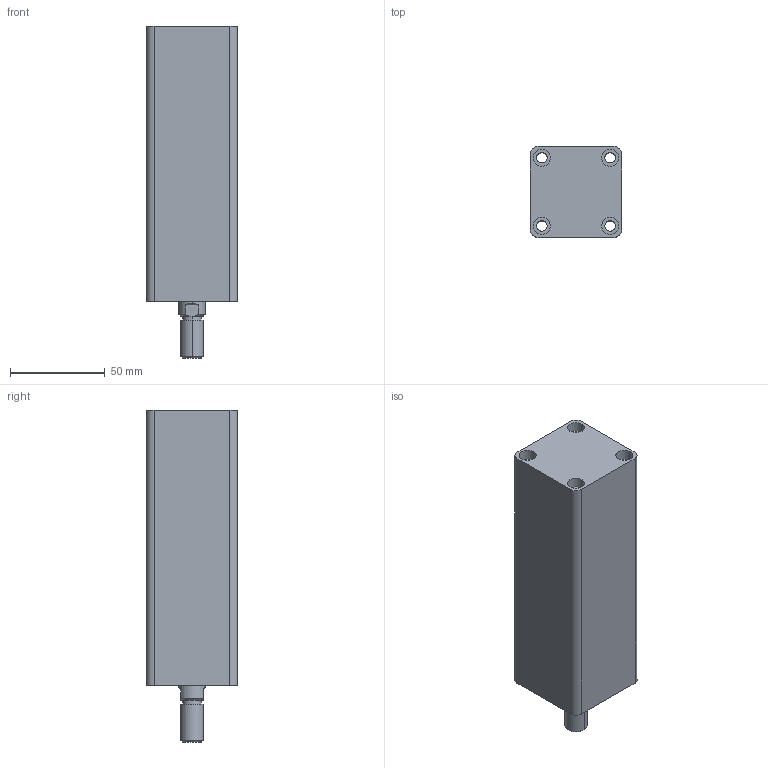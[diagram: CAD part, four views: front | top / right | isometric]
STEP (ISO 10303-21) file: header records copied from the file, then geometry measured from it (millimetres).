
FILE_DESCRIPTION (( 'STEP AP203' ), '1' );
FILE_NAME ('HTB-SD25-100W.STEP', '2019-10-07T06:21:53', ( '微软用户' ), ( '微软中国' ), 'SwSTEP 2.0', 'SolidWorks 2012', '' );
FILE_SCHEMA (( 'CONFIG_CONTROL_DESIGN' ));
Length unit declared in the file: millimetre
Products named in the file (3): HTB-SD25-100掛极; HTB-SD25-100W活塞杆; HTB-SD25-100W
Assembly tree (2 placements, depth 2):
  HTB-SD25-100W
    HTB-SD25-100掛极
    HTB-SD25-100W活塞杆
Bounding box: 48 x 48 x 175 mm (x, y, z)
Volume: 284943.9 mm3; surface area: 61704.6 mm2
Topology: 2 solids, 2 shells, 87 faces, 188 edges, 122 vertices
Faces by surface type: cylinder 44, plane 29, cone 8, torus 6
Entity records: 2759 total; most frequent: DIRECTION 476, CARTESIAN_POINT 446, ORIENTED_EDGE 376, AXIS2_PLACEMENT_3D 204, EDGE_CURVE 188, VERTEX_POINT 122, CIRCLE 112, EDGE_LOOP 112
